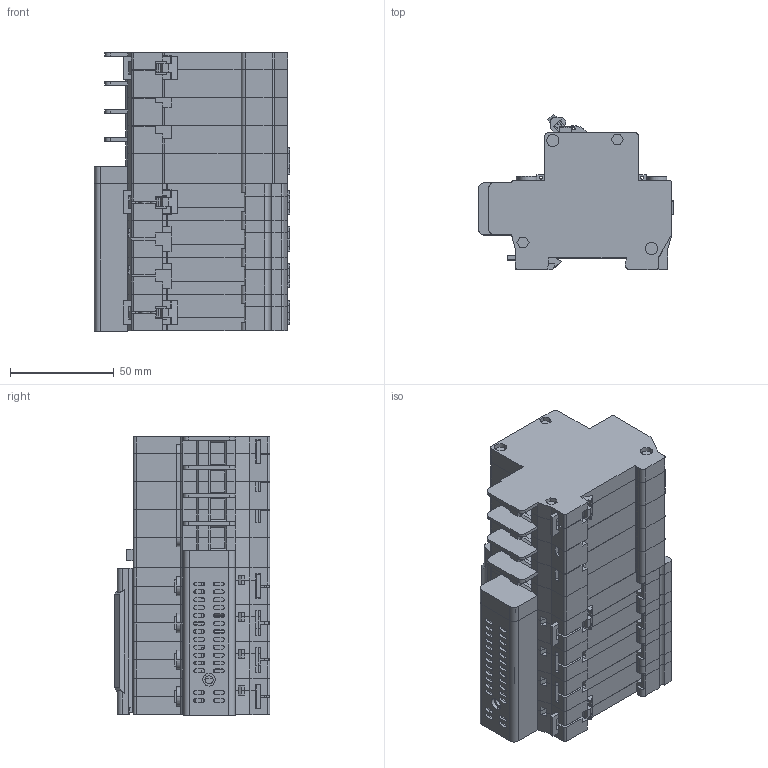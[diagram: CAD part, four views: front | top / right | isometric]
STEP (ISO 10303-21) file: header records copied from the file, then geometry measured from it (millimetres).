
FILE_DESCRIPTION (( 'STEP AP214' ), '1' );
FILE_NAME ('ﾀﾄ14 63ﾀ.STEP', '2022-11-18T10:26:02', ( '' ), ( '' ), 'SwSTEP 2.0', 'SolidWorks 2018', '' );
FILE_SCHEMA (( 'AUTOMOTIVE_DESIGN' ));
Length unit declared in the file: millimetre
Products named in the file (23): ﾂﾀ47-29 4ﾕ Changan 04.2022; Áîêîâèíà ïðàâàÿ (ÀÄ12-14 Changan) 09.2022_63€; Êíîïêà âîçâðàò; ч蜱齁罻 倢昅; 扱闀罻 蠈嚦 斂12 OFA 04.2022; Ñêîáà (ÂÀ47-29 OFA) 04.2022_4 ¯®«îá ; Çàùåëêà (ÂÀ47-29 Changan) 04.2022; 青觌屣赅 (吕47-29 OFA) 04.2022_4 釥; Êîëîäêà (ÂÀ47-29) 14.02.2022; 青汶篪赅 (吕47-29) 14.02.2022; ÂÀ47-29 1Õ Changan 04.2022_1 ¤«ï 4; Êðûøêà ïîä ïðîâîäà ÀÄ12-14 Changan 04.2022_4 ¯®«îá ; ﾂ鏆鮏 (ﾂﾀ47-29 OFA) 14.02.2022; ﾀﾄ14 63ﾀ; Áîêîâèíà ïðàâàÿ (ÂÀ47-29 Changan) 04.2022; 鎔艜 (臍47-29) 14.02.2022; Áîêîâèíà ëåâàÿ (ÂÀ47-29 Changan) 04.2022; ﾂﾀ47-29 1ﾕ Changan 04.2022_尚皚･､ｭｨｩ ｯｮｫ髜; Ñåðåäèíà (ÀÄ12-14 Changan) 04.2022_63€; Ñåðåäèíà ïåðåä êíîïêîé (ÀÄ12-14 Changan) (9.09.2022)_63€; ﾂﾀ47-29 1ﾕ Changan 04.2022_｡･ｧ ｧ鬣ｫｪｨ; Ðó÷êà (ÂÀ47-29 Changan) 04.2022; Ëåâàÿ áîêîâèíà  (ÀÄ12-14 Changan) 04.2022_63€
Assembly tree (59 placements, depth 4):
  ﾀﾄ14 63ﾀ
    Ëåâàÿ áîêîâèíà  (ÀÄ12-14 Changan) 04.2022_63€
    Ñåðåäèíà ïåðåä êíîïêîé (ÀÄ12-14 Changan) (9.09.2022)_63€
    Êðûøêà ïîä ïðîâîäà ÀÄ12-14 Changan 04.2022_4 ¯®«îá 
    Áîêîâèíà ïðàâàÿ (ÀÄ12-14 Changan) 09.2022_63€
    Çàùåëêà (ÂÀ47-29 Changan) 04.2022
    Ñåðåäèíà (ÀÄ12-14 Changan) 04.2022_63€  x2
    ﾂﾀ47-29 4ﾕ Changan 04.2022
      ÂÀ47-29 1Õ Changan 04.2022_1 ¤«ï 4
        Áîêîâèíà ïðàâàÿ (ÂÀ47-29 Changan) 04.2022
        Áîêîâèíà ëåâàÿ (ÂÀ47-29 Changan) 04.2022
        Çàùåëêà (ÂÀ47-29 Changan) 04.2022
        Ðó÷êà (ÂÀ47-29 Changan) 04.2022
        青觌屣赅 (吕47-29 OFA) 04.2022_4 釥  x4
        青汶篪赅 (吕47-29) 14.02.2022  x2
        鎔艜 (臍47-29) 14.02.2022  x2
        ﾂ鏆鮏 (ﾂﾀ47-29 OFA) 14.02.2022  x2
        Êîëîäêà (ÂÀ47-29) 14.02.2022  x2
      ﾂﾀ47-29 1ﾕ Changan 04.2022_｡･ｧ ｧ鬣ｫｪｨ  x2
        Áîêîâèíà ïðàâàÿ (ÂÀ47-29 Changan) 04.2022
        Áîêîâèíà ëåâàÿ (ÂÀ47-29 Changan) 04.2022
        Ðó÷êà (ÂÀ47-29 Changan) 04.2022
        青汶篪赅 (吕47-29) 14.02.2022
        鎔艜 (臍47-29) 14.02.2022
        ﾂ鏆鮏 (ﾂﾀ47-29 OFA) 14.02.2022
        Êîëîäêà (ÂÀ47-29) 14.02.2022
      ﾂﾀ47-29 1ﾕ Changan 04.2022_尚皚･､ｭｨｩ ｯｮｫ髜
        Áîêîâèíà ïðàâàÿ (ÂÀ47-29 Changan) 04.2022
        Áîêîâèíà ëåâàÿ (ÂÀ47-29 Changan) 04.2022
        Çàùåëêà (ÂÀ47-29 Changan) 04.2022
        Ðó÷êà (ÂÀ47-29 Changan) 04.2022
        青汶篪赅 (吕47-29) 14.02.2022  x2
        鎔艜 (臍47-29) 14.02.2022  x2
        ﾂ鏆鮏 (ﾂﾀ47-29 OFA) 14.02.2022  x2
        Êîëîäêà (ÂÀ47-29) 14.02.2022  x2
      Ñêîáà (ÂÀ47-29 OFA) 04.2022_4 ¯®«îá 
    扱闀罻 蠈嚦 斂12 OFA 04.2022
    鎔艜 (臍47-29) 14.02.2022  x4
    ч蜱齁罻 倢昅
    Êíîïêà âîçâðàò
Bounding box: 94 x 74.7 x 133.9 mm (x, y, z)
Volume: 497564.6 mm3; surface area: 215442.6 mm2
Topology: 65 solids, 65 shells, 4327 faces, 11760 edges, 7624 vertices
Faces by surface type: plane 3205, cylinder 1018, torus 104
Entity records: 42516 total; most frequent: CARTESIAN_POINT 7428, ORIENTED_EDGE 7194, DIRECTION 6962, EDGE_CURVE 3597, VECTOR 2886, LINE 2886, VERTEX_POINT 2360, AXIS2_PLACEMENT_3D 2038
